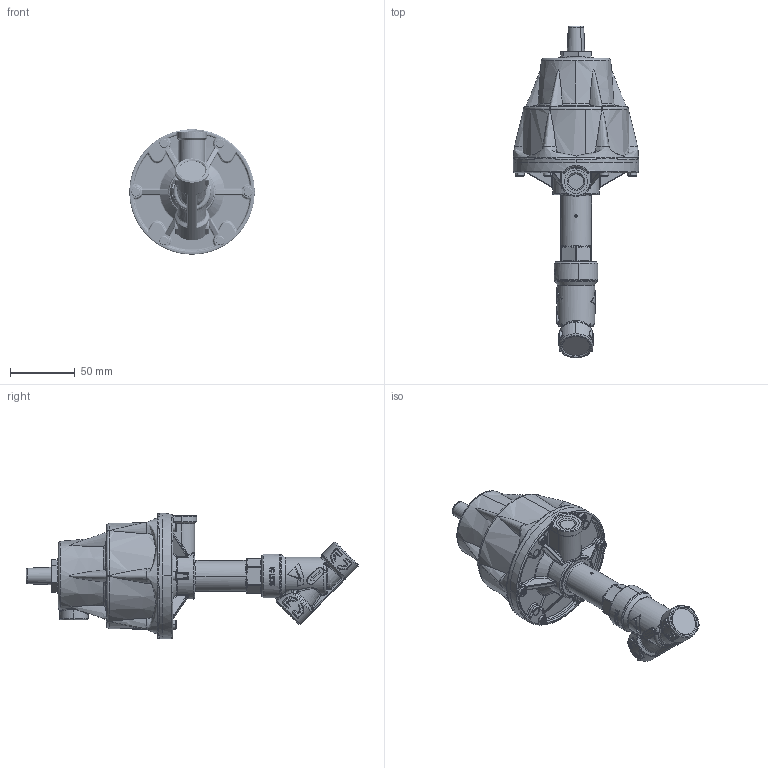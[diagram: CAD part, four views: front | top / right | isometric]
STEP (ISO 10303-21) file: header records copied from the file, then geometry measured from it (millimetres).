
FILE_DESCRIPTION( (''), '2;1');
FILE_NAME ('PC1276.13160.ASV-1000 15A_5510.stp','2025-09-24T09:32:12',(''),(''),'spGate 20.6.3 (****-****-****-****)','','');
FILE_SCHEMA (('AUTOMOTIVE_DESIGN'));
Length unit declared in the file: millimetre
Products named in the file (7): Assembly; Body 15A改1(フロービロー); Packing case 15A; ASV-1000 15A_M1; TORX screw T20M4-16; Actuator cover(ノーマルクローズ); Actuator base
Assembly tree (11 placements, depth 2):
  Assembly
    Body 15A改1(フロービロー)
    Packing case 15A
    ASV-1000 15A_M1
    TORX screw T20M4-16  x6
    Actuator cover(ノーマルクローズ)
    Actuator base
Bounding box: 97 x 256.92 x 97 mm (x, y, z)
Volume: 553780 mm3; surface area: 83576.2 mm2
Topology: 11 solids, 11 shells, 1872 faces, 4727 edges, 2805 vertices
Faces by surface type: bspline 747, cylinder 723, plane 306, sphere 96
Entity records: 102928 total; most frequent: CARTESIAN_POINT 46675, ORIENTED_EDGE 6890, COLOUR_RGB 4918, PRESENTATION_STYLE_ASSIGNMENT 4918, STYLED_ITEM 4918, DIRECTION 4738, EDGE_CURVE 3445, DRAUGHTING_PRE_DEFINED_CURVE_FONT 3445
